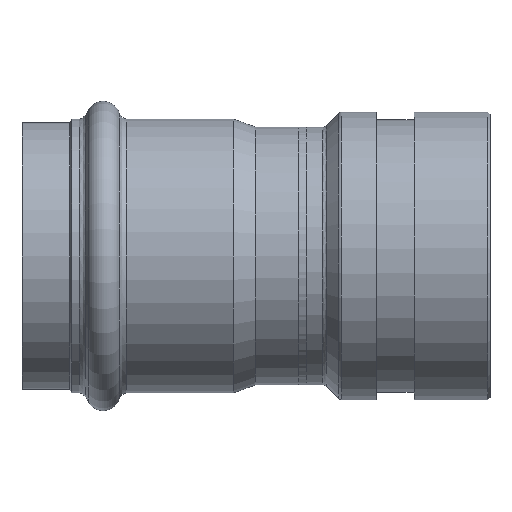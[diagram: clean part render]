
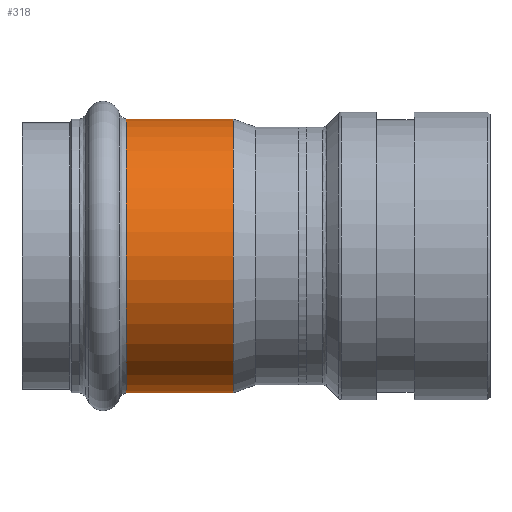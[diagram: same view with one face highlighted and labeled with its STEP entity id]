
A CAD part, front view. The second image highlights one B-rep face of the part: STEP entity #318.
In plain terms, the highlighted cylindrical face has radius 28.675 mm (diameter 57.35 mm), a full revolution.
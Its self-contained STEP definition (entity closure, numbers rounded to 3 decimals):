
#287=CARTESIAN_POINT('',(-31.165,28.675,0.));
#288=VERTEX_POINT('',#287);
#289=CARTESIAN_POINT('',(-31.165,0.0,0.0));
#290=DIRECTION('',(-1.0,0.0,0.0));
#291=DIRECTION('',(0.0,-1.0,0.0));
#292=AXIS2_PLACEMENT_3D('',#289,#290,#291);
#293=CIRCLE('',#292,28.675);
#294=EDGE_CURVE('',#288,#288,#293,.T.);
#299=CARTESIAN_POINT('',(-20.621,0.0,0.0));
#300=DIRECTION('',(1.0,0.0,0.0));
#301=DIRECTION('',(0.0,1.0,0.0));
#302=AXIS2_PLACEMENT_3D('',#299,#300,#301);
#303=CYLINDRICAL_SURFACE('',#302,28.675);
#304=CARTESIAN_POINT('',(-8.736,28.675,0.0));
#305=VERTEX_POINT('',#304);
#306=CARTESIAN_POINT('',(-8.736,0.0,0.0));
#307=DIRECTION('',(1.0,0.0,0.0));
#308=DIRECTION('',(0.0,1.0,0.0));
#309=AXIS2_PLACEMENT_3D('',#306,#307,#308);
#310=CIRCLE('',#309,28.675);
#311=EDGE_CURVE('',#305,#305,#310,.T.);
#312=ORIENTED_EDGE('',*,*,#311,.F.);
#313=EDGE_LOOP('',(#312));
#314=FACE_OUTER_BOUND('',#313,.T.);
#315=ORIENTED_EDGE('',*,*,#294,.F.);
#316=EDGE_LOOP('',(#315));
#317=FACE_BOUND('',#316,.T.);
#318=ADVANCED_FACE('',(#314,#317),#303,.T.);
